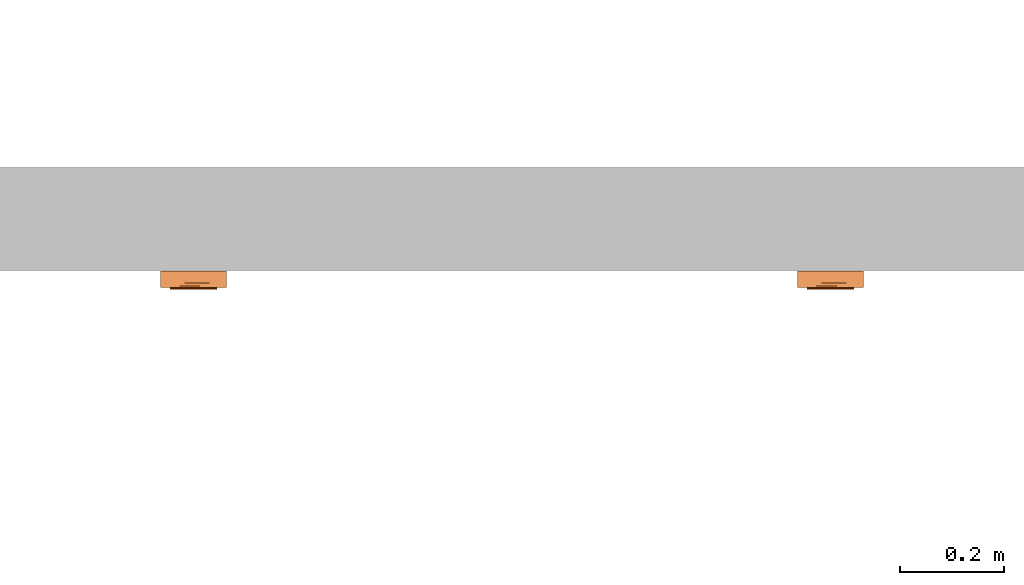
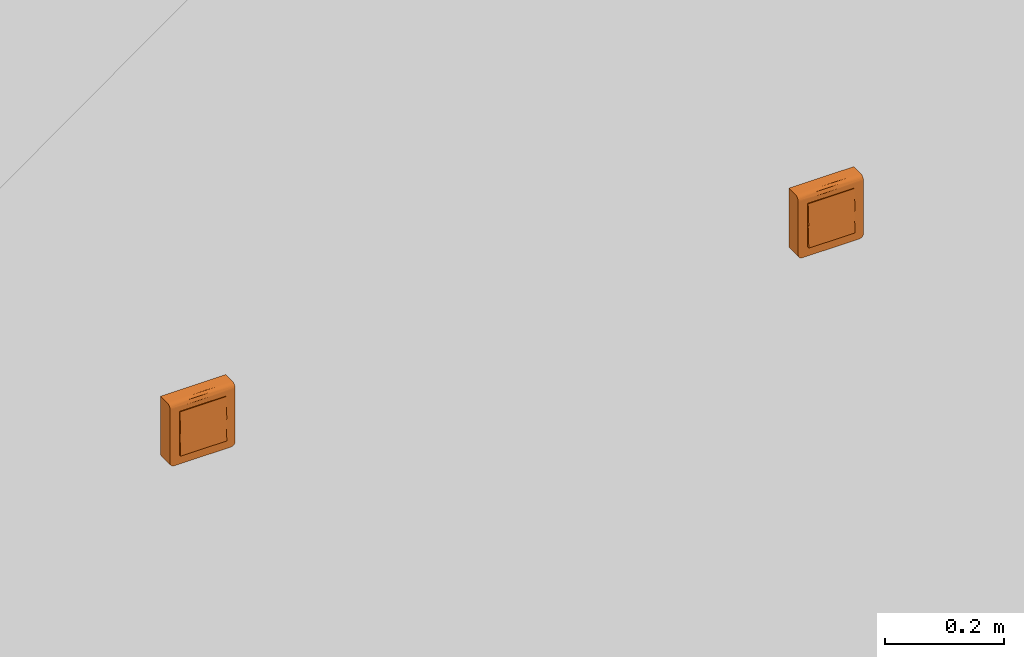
# One storey, part 167 of 197: 2 proxies.
"""IFC2X3 building model written with IfcOpenShell, lengths in metres."""

from ifc_helpers import new_model, entity, si_unit, converted_unit, direction, frame, origin, place, context, subcontext, project, spatial, faceted_brep, source, transform, mapped, material, material_list, type_object, type_shapes, element, save


model = new_model("IFC2X3")

# Units and contexts
model_context = context("Model", 3, precision=1e-05, world=origin(), true_north=direction((6.123031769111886e-17, 1.0)))
body_context = subcontext(model_context, "Body", "Model", "MODEL_VIEW")
ifc_project = project(units=[si_unit("LENGTHUNIT", "METRE"), converted_unit("PLANEANGLEUNIT", "DEGREE", entity("IfcPlaneAngleMeasure", 0.017453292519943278), si_unit("PLANEANGLEUNIT", "RADIAN"), dimensions=[0, 0, 0, 0, 0, 0, 0]), si_unit("AREAUNIT", "SQUARE_METRE")], contexts=[model_context])

# Site, building, storey
site_placement = place(None, origin())
site = spatial("IfcSite", under=ifc_project, at=site_placement, Name="Default", CompositionType="ELEMENT")
building_placement = place(site_placement, origin())
building = spatial("IfcBuilding", under=site, at=building_placement, CompositionType="ELEMENT")
storey_placement = place(building_placement, origin())
storey = spatial("IfcBuildingStorey", under=building, at=storey_placement, Name="Niveau 0", CompositionType="ELEMENT", Elevation=0.0)

# Proxies
ifc_material_1 = material(Name="BETCE-CADRE-BLANC")
ifc_material_2 = material(Name="BETCE-DOIGT-BLANC")
ifc_material_3 = material(Name="BETCE-ENJOLIVEUR-BLANC")
ifc_material_list = material_list([ifc_material_1, ifc_material_2, ifc_material_3])
building_element_proxy_type_1 = type_object("IfcBuildingElementProxyType", Name="Tableau commande 2x4 modules saillie:4 BP + 4 VV", PredefinedType="NOTDEFINED", material=ifc_material_list)
shared_shape_1 = source(origin(), body_context, "Body", "Brep", [
    faceted_brep([(0.06349999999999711, -0.022999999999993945, 0.0635), (-0.06350000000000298, -0.022999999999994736, 0.0635), (-0.06350000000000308, -0.022999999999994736, -0.055499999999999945), (-0.06322740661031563, -0.022999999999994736, -0.05757055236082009), (-0.06242820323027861, -0.02299999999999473, -0.059499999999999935), (-0.06115685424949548, -0.022999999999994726, -0.06115685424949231), (-0.05950000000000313, -0.022999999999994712, -0.06242820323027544), (-0.05757055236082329, -0.0229999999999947, -0.06322740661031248), (-0.05550000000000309, -0.022999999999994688, -0.06350000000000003), (0.055499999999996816, -0.022999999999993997, -0.0635000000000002), (0.057570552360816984, -0.022999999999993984, -0.06322740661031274), (0.05949999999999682, -0.022999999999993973, -0.062428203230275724), (0.06115685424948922, -0.022999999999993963, -0.061156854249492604), (0.062428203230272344, -0.022999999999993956, -0.05950000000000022), (0.0632274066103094, -0.022999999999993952, -0.0575705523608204), (0.06349999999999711, -0.022999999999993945, -0.05550000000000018), (-0.05550000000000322, 0.0, -0.06349999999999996), (-0.05757055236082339, 0.0, -0.06322740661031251), (-0.05950000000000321, 0.0, -0.062428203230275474), (-0.06115685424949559, 0.0, -0.06115685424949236), (-0.06242820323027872, 0.0, -0.05949999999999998), (-0.06322740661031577, 0.0, -0.05757055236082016), (-0.06350000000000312, 0.0, -0.055499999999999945), (-0.06350000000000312, 0.0, 0.0635), (0.06349999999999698, 0.0, 0.0635), (0.06349999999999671, 0.0, -0.05550000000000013), (0.06322740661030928, 0.0, -0.0575705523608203), (0.06242820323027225, 0.0, -0.05950000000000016), (0.06115685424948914, 0.0, -0.061156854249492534), (0.059499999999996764, 0.0, -0.062428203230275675), (0.05757055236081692, 0.0, -0.06322740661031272), (0.055499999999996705, 0.0, -0.0635)], [[[0, 1, 2, 3, 4, 5, 6, 7, 8, 9, 10, 11, 12, 13, 14, 15]], [[16, 17, 18, 19, 20, 21, 22, 23, 24, 25, 26, 27, 28, 29, 30, 31]], [[2, 1, 23, 22]], [[9, 8, 16, 31]], [[0, 15, 25, 24]], [[1, 0, 24, 23]], [[25, 15, 14, 26]], [[26, 14, 13, 27]], [[27, 13, 12, 28]], [[29, 11, 10, 30]], [[30, 10, 9, 31]], [[28, 12, 11, 29]], [[17, 16, 8, 7]], [[18, 17, 7, 6]], [[19, 18, 6, 5]], [[20, 19, 5, 4]], [[21, 20, 4, 3]], [[22, 21, 3, 2]]]),
    faceted_brep([(0.022499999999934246, -0.022999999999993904, -0.045000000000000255), (0.022499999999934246, -0.022999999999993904, 0.0), (0.04499999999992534, -0.022999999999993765, 0.0), (0.04499999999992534, -0.022999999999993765, -0.045000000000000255), (0.022499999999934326, -0.03574999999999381, -0.045000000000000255), (0.02249999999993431, -0.033499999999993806, 0.0), (0.044999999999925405, -0.03349999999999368, 0.0), (0.04499999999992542, -0.03574999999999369, -0.045000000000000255)], [[[0, 1, 2, 3]], [[1, 0, 4, 5]], [[2, 1, 5, 6]], [[3, 2, 6, 7]], [[0, 3, 7, 4]], [[5, 4, 7, 6]]]),
    faceted_brep([(0.0, -0.022999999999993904, -0.04500000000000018), (0.0, -0.022999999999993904, 0.0), (0.02249999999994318, -0.022999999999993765, 0.0), (0.02249999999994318, -0.022999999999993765, -0.04500000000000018), (0.0, -0.03574999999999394, -0.04500000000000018), (0.0, -0.03349999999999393, 0.0), (0.022499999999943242, -0.033499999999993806, 0.0), (0.02249999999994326, -0.03574999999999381, -0.04500000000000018)], [[[0, 1, 2, 3]], [[1, 0, 4, 5]], [[2, 1, 5, 6]], [[3, 2, 6, 7]], [[0, 3, 7, 4]], [[5, 4, 7, 6]]]),
    faceted_brep([(-0.02250000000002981, -0.022999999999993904, -0.0450000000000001), (-0.02250000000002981, -0.022999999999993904, 0.0), (0.0, -0.022999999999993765, 0.0), (0.0, -0.022999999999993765, -0.0450000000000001), (-0.02250000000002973, -0.03574999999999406, -0.0450000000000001), (-0.022500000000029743, -0.03349999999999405, 0.0), (0.0, -0.033499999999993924, 0.0), (0.0, -0.03574999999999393, -0.0450000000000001)], [[[0, 1, 2, 3]], [[1, 0, 4, 5]], [[2, 1, 5, 6]], [[3, 2, 6, 7]], [[0, 3, 7, 4]], [[5, 4, 7, 6]]]),
    faceted_brep([(-0.04500000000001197, -0.022999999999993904, -0.045000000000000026), (-0.04500000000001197, -0.022999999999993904, 0.0), (-0.022500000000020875, -0.022999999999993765, 0.0), (-0.022500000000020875, -0.022999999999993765, -0.045000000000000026), (-0.04500000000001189, -0.03574999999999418, -0.045000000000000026), (-0.0450000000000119, -0.03349999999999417, 0.0), (-0.02250000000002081, -0.03349999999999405, 0.0), (-0.022500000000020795, -0.03574999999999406, -0.045000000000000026)], [[[0, 1, 2, 3]], [[1, 0, 4, 5]], [[2, 1, 5, 6]], [[3, 2, 6, 7]], [[0, 3, 7, 4]], [[5, 4, 7, 6]]]),
    faceted_brep([(0.02249999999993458, -0.03349999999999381, 0.04499999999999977), (0.022499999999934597, -0.03574999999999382, 0.0), (0.04499999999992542, -0.0357499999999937, 0.0), (0.044999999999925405, -0.03349999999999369, 0.04499999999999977), (0.022499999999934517, -0.022999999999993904, 0.0), (0.022499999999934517, -0.022999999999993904, 0.04499999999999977), (0.04499999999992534, -0.022999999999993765, 0.04499999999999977), (0.04499999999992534, -0.022999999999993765, 0.0)], [[[0, 1, 2, 3]], [[4, 5, 6, 7]], [[5, 4, 1, 0]], [[6, 5, 0, 3]], [[7, 6, 3, 2]], [[4, 7, 2, 1]]]),
    faceted_brep([(0.0, -0.03349999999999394, 0.044999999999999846), (0.0, -0.035749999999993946, 0.0), (0.02249999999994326, -0.03574999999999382, 0.0), (0.022499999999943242, -0.03349999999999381, 0.044999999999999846), (0.0, -0.022999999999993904, 0.0), (0.0, -0.022999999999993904, 0.044999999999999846), (0.02249999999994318, -0.022999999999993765, 0.04499999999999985), (0.02249999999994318, -0.022999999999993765, 0.0)], [[[0, 1, 2, 3]], [[4, 5, 6, 7]], [[5, 4, 1, 0]], [[6, 5, 0, 3]], [[7, 6, 3, 2]], [[4, 7, 2, 1]]]),
    faceted_brep([(-0.022500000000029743, -0.03349999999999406, 0.04499999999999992), (-0.02250000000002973, -0.03574999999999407, 0.0), (0.0, -0.03574999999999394, 0.0), (0.0, -0.03349999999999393, 0.04499999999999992), (-0.02250000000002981, -0.022999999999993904, 0.0), (-0.02250000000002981, -0.022999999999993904, 0.04499999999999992), (0.0, -0.022999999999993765, 0.04499999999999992), (0.0, -0.022999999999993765, 0.0)], [[[0, 1, 2, 3]], [[4, 5, 6, 7]], [[5, 4, 1, 0]], [[6, 5, 0, 3]], [[7, 6, 3, 2]], [[4, 7, 2, 1]]]),
    faceted_brep([(-0.04500000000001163, -0.03349999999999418, 0.045), (-0.045000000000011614, -0.03574999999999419, 0.0), (-0.022500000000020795, -0.035749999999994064, 0.0), (-0.02250000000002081, -0.03349999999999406, 0.045), (-0.0450000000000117, -0.022999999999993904, 0.0), (-0.0450000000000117, -0.022999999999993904, 0.045), (-0.022500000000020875, -0.022999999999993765, 0.045000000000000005), (-0.022500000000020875, -0.022999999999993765, 0.0)], [[[0, 1, 2, 3]], [[4, 5, 6, 7]], [[5, 4, 1, 0]], [[6, 5, 0, 3]], [[7, 6, 3, 2]], [[4, 7, 2, 1]]]),
    faceted_brep([(0.06349999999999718, -0.03199999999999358, -0.055500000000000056), (0.063499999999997, -0.03199999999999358, 0.05450000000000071), (0.04499999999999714, -0.03199999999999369, -0.045000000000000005), (0.05549999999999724, -0.03199999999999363, -0.06350000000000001), (0.057570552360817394, -0.03199999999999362, -0.06322740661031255), (0.06322740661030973, -0.03199999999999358, -0.05757055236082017), (0.04499999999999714, -0.03199999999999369, 0.045), (-0.04500000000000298, -0.031999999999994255, 0.045000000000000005), (-0.011124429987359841, -0.03199999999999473, 0.054500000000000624), (-0.06350000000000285, -0.03199999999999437, 0.05450000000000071), (-0.04500000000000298, -0.031999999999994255, -0.045000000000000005), (-0.06350000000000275, -0.03199999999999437, -0.05550000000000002), (-0.05550000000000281, -0.03199999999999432, -0.06350000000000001), (-0.05757055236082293, -0.03199999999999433, -0.06322740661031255), (-0.06322740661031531, -0.031999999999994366, -0.05757055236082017), (-0.05950000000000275, -0.031999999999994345, -0.062428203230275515), (-0.06242820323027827, -0.03199999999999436, -0.05950000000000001), (-0.06115685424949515, -0.03199999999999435, -0.06115685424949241), (0.05949999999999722, -0.0319999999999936, -0.062428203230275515), (0.062428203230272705, -0.03199999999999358, -0.05949999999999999), (0.06115685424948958, -0.031999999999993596, -0.061156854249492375), (-0.06350000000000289, -0.02299999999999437, -0.05550000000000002), (-0.06350000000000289, -0.02299999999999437, 0.06350000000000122), (-0.04500000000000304, -0.02299999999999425, 0.045000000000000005), (-0.04500000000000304, -0.02299999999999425, -0.045000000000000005), (-0.05550000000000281, -0.02299999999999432, -0.06350000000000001), (-0.06322740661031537, -0.022999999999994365, -0.05757055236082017), (0.04499999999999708, -0.022999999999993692, 0.045000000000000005), (0.011124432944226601, -0.022999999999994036, 0.06350000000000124), (0.06349999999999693, -0.022999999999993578, 0.0635), (0.06349999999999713, -0.022999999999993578, -0.05550000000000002), (0.04499999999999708, -0.022999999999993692, -0.045000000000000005), (0.05549999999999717, -0.02299999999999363, -0.06350000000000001), (0.06322740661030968, -0.022999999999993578, -0.05757055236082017), (0.05757055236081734, -0.022999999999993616, -0.06322740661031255), (0.06242820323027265, -0.022999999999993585, -0.05949999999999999), (0.05949999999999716, -0.022999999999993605, -0.062428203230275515), (0.06115685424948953, -0.02299999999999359, -0.061156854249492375), (-0.05757055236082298, -0.02299999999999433, -0.06322740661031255), (-0.062428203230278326, -0.022999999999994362, -0.05950000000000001), (-0.05950000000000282, -0.022999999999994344, -0.062428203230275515), (-0.0611568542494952, -0.02299999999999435, -0.06115685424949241), (0.06349999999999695, -0.025329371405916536, 0.06319333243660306), (0.06349999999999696, -0.02749999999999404, 0.06229422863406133), (0.06349999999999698, -0.029363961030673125, 0.060863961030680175), (0.06349999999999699, -0.03079422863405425, 0.05900000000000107), (0.06349999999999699, -0.03169333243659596, 0.05682937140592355), (-0.06350000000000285, -0.03169333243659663, 0.0568293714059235), (-0.06350000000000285, -0.030794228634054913, 0.059000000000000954), (-0.06350000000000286, -0.029363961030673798, 0.06086396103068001), (-0.06350000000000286, -0.027499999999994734, 0.062294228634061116), (-0.06350000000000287, -0.025329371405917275, 0.06319333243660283), (-0.010857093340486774, -0.029120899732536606, 0.06109807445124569)], [[[0, 1, 2]], [[3, 0, 2]], [[0, 3, 4]], [[5, 0, 4]], [[2, 1, 6]], [[1, 7, 6]], [[7, 1, 8]], [[7, 8, 9]], [[10, 7, 9]], [[11, 10, 9]], [[12, 10, 11]], [[12, 11, 13]], [[13, 11, 14]], [[15, 13, 14]], [[16, 15, 14]], [[15, 16, 17]], [[10, 12, 3]], [[2, 10, 3]], [[5, 4, 18]], [[5, 18, 19]], [[20, 19, 18]], [[21, 22, 23]], [[24, 21, 23]], [[25, 21, 24]], [[26, 21, 25]], [[22, 27, 23]], [[27, 22, 28]], [[27, 28, 29]], [[30, 27, 29]], [[31, 27, 30]], [[32, 31, 30]], [[32, 30, 33]], [[32, 33, 34]], [[33, 35, 34]], [[35, 36, 34]], [[36, 35, 37]], [[31, 32, 25]], [[26, 25, 38]], [[24, 31, 25]], [[39, 26, 38]], [[39, 38, 40]], [[41, 39, 40]], [[1, 0, 30, 29, 42, 43, 44, 45, 46]], [[33, 30, 0, 5]], [[35, 33, 5, 19]], [[37, 35, 19, 20]], [[36, 37, 20, 18]], [[34, 36, 18, 4]], [[32, 34, 4, 3]], [[25, 32, 3, 12]], [[38, 25, 12, 13]], [[40, 38, 13, 15]], [[41, 40, 15, 17]], [[39, 41, 17, 16]], [[26, 39, 16, 14]], [[21, 26, 14, 11]], [[22, 21, 11, 9, 47, 48, 49, 50, 51]], [[24, 23, 7, 10]], [[31, 24, 10, 2]], [[27, 31, 2, 6]], [[23, 27, 6, 7]], [[52, 8, 45]], [[47, 9, 8]], [[1, 46, 8]], [[44, 52, 45]], [[46, 45, 8]], [[50, 52, 51]], [[48, 47, 8]], [[28, 52, 43]], [[48, 52, 49]], [[42, 29, 28]], [[28, 22, 51]], [[48, 8, 52]], [[28, 43, 42]], [[44, 43, 52]], [[52, 50, 49]], [[52, 28, 51]]]),
])
type_shapes(building_element_proxy_type_1, [shared_shape_1])
proxy_1_placement = place(storey_placement, frame((-351.1217796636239, 116.01635778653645, 1.1)))
element("IfcBuildingElementProxy", 1, at=proxy_1_placement, inside=storey, type_object=building_element_proxy_type_1, material=ifc_material_list, Name="Tableau commande 2x4 modules saillie:4 BP + 4 VV", ObjectType="Tableau commande 2x4 modules saillie:4 BP + 4 VV", context=body_context, shape_type="MappedRepresentation", body=[
    mapped(shared_shape_1, transform((0.0, 0.0, 0.0), scale=1.0)),
])
building_element_proxy_type_2 = type_object("IfcBuildingElementProxyType", Name="Tableau commande 2x4 modules saillie:5 BP + 3 VV", PredefinedType="NOTDEFINED", material=ifc_material_list)
shared_shape_2 = source(origin(), body_context, "Body", "Brep", [
    faceted_brep([(0.06349999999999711, -0.022999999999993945, 0.0635), (-0.06350000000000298, -0.022999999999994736, 0.0635), (-0.06350000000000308, -0.022999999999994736, -0.055499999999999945), (-0.06322740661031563, -0.022999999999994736, -0.05757055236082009), (-0.06242820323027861, -0.02299999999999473, -0.059499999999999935), (-0.06115685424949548, -0.022999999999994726, -0.06115685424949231), (-0.05950000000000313, -0.022999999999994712, -0.06242820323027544), (-0.05757055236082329, -0.0229999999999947, -0.06322740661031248), (-0.05550000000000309, -0.022999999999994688, -0.06350000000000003), (0.055499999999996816, -0.022999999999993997, -0.0635000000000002), (0.057570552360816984, -0.022999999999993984, -0.06322740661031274), (0.05949999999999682, -0.022999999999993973, -0.062428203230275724), (0.06115685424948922, -0.022999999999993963, -0.061156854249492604), (0.062428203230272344, -0.022999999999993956, -0.05950000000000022), (0.0632274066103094, -0.022999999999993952, -0.0575705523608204), (0.06349999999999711, -0.022999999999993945, -0.05550000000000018), (-0.05550000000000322, 0.0, -0.06349999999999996), (-0.05757055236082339, 0.0, -0.06322740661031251), (-0.05950000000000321, 0.0, -0.062428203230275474), (-0.06115685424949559, 0.0, -0.06115685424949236), (-0.06242820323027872, 0.0, -0.05949999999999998), (-0.06322740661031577, 0.0, -0.05757055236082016), (-0.06350000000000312, 0.0, -0.055499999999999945), (-0.06350000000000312, 0.0, 0.0635), (0.06349999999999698, 0.0, 0.0635), (0.06349999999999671, 0.0, -0.05550000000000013), (0.06322740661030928, 0.0, -0.0575705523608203), (0.06242820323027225, 0.0, -0.05950000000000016), (0.06115685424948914, 0.0, -0.061156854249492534), (0.059499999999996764, 0.0, -0.062428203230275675), (0.05757055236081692, 0.0, -0.06322740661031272), (0.055499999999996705, 0.0, -0.0635)], [[[0, 1, 2, 3, 4, 5, 6, 7, 8, 9, 10, 11, 12, 13, 14, 15]], [[16, 17, 18, 19, 20, 21, 22, 23, 24, 25, 26, 27, 28, 29, 30, 31]], [[2, 1, 23, 22]], [[9, 8, 16, 31]], [[0, 15, 25, 24]], [[1, 0, 24, 23]], [[25, 15, 14, 26]], [[26, 14, 13, 27]], [[27, 13, 12, 28]], [[29, 11, 10, 30]], [[30, 10, 9, 31]], [[28, 12, 11, 29]], [[17, 16, 8, 7]], [[18, 17, 7, 6]], [[19, 18, 6, 5]], [[20, 19, 5, 4]], [[21, 20, 4, 3]], [[22, 21, 3, 2]]]),
    faceted_brep([(0.022499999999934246, -0.022999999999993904, -0.045000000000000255), (0.022499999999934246, -0.022999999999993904, 0.0), (0.04499999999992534, -0.022999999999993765, 0.0), (0.04499999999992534, -0.022999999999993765, -0.045000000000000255), (0.022499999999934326, -0.03574999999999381, -0.045000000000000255), (0.02249999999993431, -0.033499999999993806, 0.0), (0.044999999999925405, -0.03349999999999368, 0.0), (0.04499999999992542, -0.03574999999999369, -0.045000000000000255)], [[[0, 1, 2, 3]], [[1, 0, 4, 5]], [[2, 1, 5, 6]], [[3, 2, 6, 7]], [[0, 3, 7, 4]], [[5, 4, 7, 6]]]),
    faceted_brep([(0.0, -0.022999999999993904, -0.04500000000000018), (0.0, -0.022999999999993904, 0.0), (0.02249999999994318, -0.022999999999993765, 0.0), (0.02249999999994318, -0.022999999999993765, -0.04500000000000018), (0.0, -0.03574999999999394, -0.04500000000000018), (0.0, -0.03349999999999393, 0.0), (0.022499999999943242, -0.033499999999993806, 0.0), (0.02249999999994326, -0.03574999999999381, -0.04500000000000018)], [[[0, 1, 2, 3]], [[1, 0, 4, 5]], [[2, 1, 5, 6]], [[3, 2, 6, 7]], [[0, 3, 7, 4]], [[5, 4, 7, 6]]]),
    faceted_brep([(-0.02250000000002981, -0.022999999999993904, -0.0450000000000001), (-0.02250000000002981, -0.022999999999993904, 0.0), (0.0, -0.022999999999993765, 0.0), (0.0, -0.022999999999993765, -0.0450000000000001), (-0.02250000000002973, -0.03574999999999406, -0.0450000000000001), (-0.022500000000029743, -0.03349999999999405, 0.0), (0.0, -0.033499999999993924, 0.0), (0.0, -0.03574999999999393, -0.0450000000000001)], [[[0, 1, 2, 3]], [[1, 0, 4, 5]], [[2, 1, 5, 6]], [[3, 2, 6, 7]], [[0, 3, 7, 4]], [[5, 4, 7, 6]]]),
    faceted_brep([(-0.04500000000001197, -0.022999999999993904, -0.045000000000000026), (-0.04500000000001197, -0.022999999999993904, 0.0), (-0.022500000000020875, -0.022999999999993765, 0.0), (-0.022500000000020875, -0.022999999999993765, -0.045000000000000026), (-0.04500000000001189, -0.03574999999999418, -0.045000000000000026), (-0.0450000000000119, -0.03349999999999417, 0.0), (-0.02250000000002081, -0.03349999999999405, 0.0), (-0.022500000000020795, -0.03574999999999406, -0.045000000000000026)], [[[0, 1, 2, 3]], [[1, 0, 4, 5]], [[2, 1, 5, 6]], [[3, 2, 6, 7]], [[0, 3, 7, 4]], [[5, 4, 7, 6]]]),
    faceted_brep([(0.02249999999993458, -0.03349999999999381, 0.04499999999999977), (0.022499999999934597, -0.03574999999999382, 0.0), (0.04499999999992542, -0.0357499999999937, 0.0), (0.044999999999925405, -0.03349999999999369, 0.04499999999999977), (0.022499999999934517, -0.022999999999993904, 0.0), (0.022499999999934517, -0.022999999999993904, 0.04499999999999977), (0.04499999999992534, -0.022999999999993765, 0.04499999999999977), (0.04499999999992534, -0.022999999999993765, 0.0)], [[[0, 1, 2, 3]], [[4, 5, 6, 7]], [[5, 4, 1, 0]], [[6, 5, 0, 3]], [[7, 6, 3, 2]], [[4, 7, 2, 1]]]),
    faceted_brep([(0.0, -0.03349999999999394, 0.044999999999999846), (0.0, -0.035749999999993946, 0.0), (0.02249999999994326, -0.03574999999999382, 0.0), (0.022499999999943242, -0.03349999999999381, 0.044999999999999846), (0.0, -0.022999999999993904, 0.0), (0.0, -0.022999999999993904, 0.044999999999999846), (0.02249999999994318, -0.022999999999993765, 0.04499999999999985), (0.02249999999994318, -0.022999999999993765, 0.0)], [[[0, 1, 2, 3]], [[4, 5, 6, 7]], [[5, 4, 1, 0]], [[6, 5, 0, 3]], [[7, 6, 3, 2]], [[4, 7, 2, 1]]]),
    faceted_brep([(-0.022500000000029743, -0.03349999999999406, 0.04499999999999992), (-0.02250000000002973, -0.03574999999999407, 0.0), (0.0, -0.03574999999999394, 0.0), (0.0, -0.03349999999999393, 0.04499999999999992), (-0.02250000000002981, -0.022999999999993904, 0.0), (-0.02250000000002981, -0.022999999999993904, 0.04499999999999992), (0.0, -0.022999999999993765, 0.04499999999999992), (0.0, -0.022999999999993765, 0.0)], [[[0, 1, 2, 3]], [[4, 5, 6, 7]], [[5, 4, 1, 0]], [[6, 5, 0, 3]], [[7, 6, 3, 2]], [[4, 7, 2, 1]]]),
    faceted_brep([(-0.04500000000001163, -0.03349999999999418, 0.045), (-0.045000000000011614, -0.03574999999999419, 0.0), (-0.022500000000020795, -0.035749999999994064, 0.0), (-0.02250000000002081, -0.03349999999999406, 0.045), (-0.0450000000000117, -0.022999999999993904, 0.0), (-0.0450000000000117, -0.022999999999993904, 0.045), (-0.022500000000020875, -0.022999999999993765, 0.045000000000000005), (-0.022500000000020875, -0.022999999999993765, 0.0)], [[[0, 1, 2, 3]], [[4, 5, 6, 7]], [[5, 4, 1, 0]], [[6, 5, 0, 3]], [[7, 6, 3, 2]], [[4, 7, 2, 1]]]),
    faceted_brep([(0.06349999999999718, -0.03199999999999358, -0.055500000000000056), (0.063499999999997, -0.03199999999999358, 0.05450000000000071), (0.04499999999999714, -0.03199999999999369, -0.045000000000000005), (0.05549999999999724, -0.03199999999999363, -0.06350000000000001), (0.057570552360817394, -0.03199999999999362, -0.06322740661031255), (0.06322740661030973, -0.03199999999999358, -0.05757055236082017), (0.04499999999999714, -0.03199999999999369, 0.045), (-0.04500000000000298, -0.031999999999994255, 0.045000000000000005), (-0.011124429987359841, -0.03199999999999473, 0.054500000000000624), (-0.06350000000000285, -0.03199999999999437, 0.05450000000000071), (-0.04500000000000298, -0.031999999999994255, -0.045000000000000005), (-0.06350000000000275, -0.03199999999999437, -0.05550000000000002), (-0.05550000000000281, -0.03199999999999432, -0.06350000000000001), (-0.05757055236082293, -0.03199999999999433, -0.06322740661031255), (-0.06322740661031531, -0.031999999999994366, -0.05757055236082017), (-0.05950000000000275, -0.031999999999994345, -0.062428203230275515), (-0.06242820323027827, -0.03199999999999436, -0.05950000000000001), (-0.06115685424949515, -0.03199999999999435, -0.06115685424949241), (0.05949999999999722, -0.0319999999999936, -0.062428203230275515), (0.062428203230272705, -0.03199999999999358, -0.05949999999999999), (0.06115685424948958, -0.031999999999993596, -0.061156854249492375), (-0.06350000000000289, -0.02299999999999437, -0.05550000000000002), (-0.06350000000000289, -0.02299999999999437, 0.06350000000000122), (-0.04500000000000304, -0.02299999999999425, 0.045000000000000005), (-0.04500000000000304, -0.02299999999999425, -0.045000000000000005), (-0.05550000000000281, -0.02299999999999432, -0.06350000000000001), (-0.06322740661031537, -0.022999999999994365, -0.05757055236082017), (0.04499999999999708, -0.022999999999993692, 0.045000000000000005), (0.011124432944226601, -0.022999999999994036, 0.06350000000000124), (0.06349999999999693, -0.022999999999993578, 0.0635), (0.06349999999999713, -0.022999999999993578, -0.05550000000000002), (0.04499999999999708, -0.022999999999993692, -0.045000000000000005), (0.05549999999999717, -0.02299999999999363, -0.06350000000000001), (0.06322740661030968, -0.022999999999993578, -0.05757055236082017), (0.05757055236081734, -0.022999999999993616, -0.06322740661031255), (0.06242820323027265, -0.022999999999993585, -0.05949999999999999), (0.05949999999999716, -0.022999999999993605, -0.062428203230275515), (0.06115685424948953, -0.02299999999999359, -0.061156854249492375), (-0.05757055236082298, -0.02299999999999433, -0.06322740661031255), (-0.062428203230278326, -0.022999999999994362, -0.05950000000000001), (-0.05950000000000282, -0.022999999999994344, -0.062428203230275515), (-0.0611568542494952, -0.02299999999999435, -0.06115685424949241), (0.06349999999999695, -0.025329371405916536, 0.06319333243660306), (0.06349999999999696, -0.02749999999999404, 0.06229422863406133), (0.06349999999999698, -0.029363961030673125, 0.060863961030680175), (0.06349999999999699, -0.03079422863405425, 0.05900000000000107), (0.06349999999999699, -0.03169333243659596, 0.05682937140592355), (-0.06350000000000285, -0.03169333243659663, 0.0568293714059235), (-0.06350000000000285, -0.030794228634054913, 0.059000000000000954), (-0.06350000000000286, -0.029363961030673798, 0.06086396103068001), (-0.06350000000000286, -0.027499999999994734, 0.062294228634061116), (-0.06350000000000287, -0.025329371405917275, 0.06319333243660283), (-0.010857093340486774, -0.029120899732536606, 0.06109807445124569)], [[[0, 1, 2]], [[3, 0, 2]], [[0, 3, 4]], [[5, 0, 4]], [[2, 1, 6]], [[1, 7, 6]], [[7, 1, 8]], [[7, 8, 9]], [[10, 7, 9]], [[11, 10, 9]], [[12, 10, 11]], [[12, 11, 13]], [[13, 11, 14]], [[15, 13, 14]], [[16, 15, 14]], [[15, 16, 17]], [[10, 12, 3]], [[2, 10, 3]], [[5, 4, 18]], [[5, 18, 19]], [[20, 19, 18]], [[21, 22, 23]], [[24, 21, 23]], [[25, 21, 24]], [[26, 21, 25]], [[22, 27, 23]], [[27, 22, 28]], [[27, 28, 29]], [[30, 27, 29]], [[31, 27, 30]], [[32, 31, 30]], [[32, 30, 33]], [[32, 33, 34]], [[33, 35, 34]], [[35, 36, 34]], [[36, 35, 37]], [[31, 32, 25]], [[26, 25, 38]], [[24, 31, 25]], [[39, 26, 38]], [[39, 38, 40]], [[41, 39, 40]], [[1, 0, 30, 29, 42, 43, 44, 45, 46]], [[33, 30, 0, 5]], [[35, 33, 5, 19]], [[37, 35, 19, 20]], [[36, 37, 20, 18]], [[34, 36, 18, 4]], [[32, 34, 4, 3]], [[25, 32, 3, 12]], [[38, 25, 12, 13]], [[40, 38, 13, 15]], [[41, 40, 15, 17]], [[39, 41, 17, 16]], [[26, 39, 16, 14]], [[21, 26, 14, 11]], [[22, 21, 11, 9, 47, 48, 49, 50, 51]], [[24, 23, 7, 10]], [[31, 24, 10, 2]], [[27, 31, 2, 6]], [[23, 27, 6, 7]], [[52, 8, 45]], [[47, 9, 8]], [[1, 46, 8]], [[44, 52, 45]], [[46, 45, 8]], [[50, 52, 51]], [[48, 47, 8]], [[28, 52, 43]], [[48, 52, 49]], [[42, 29, 28]], [[28, 22, 51]], [[48, 8, 52]], [[28, 43, 42]], [[44, 43, 52]], [[52, 50, 49]], [[52, 28, 51]]]),
])
type_shapes(building_element_proxy_type_2, [shared_shape_2])
proxy_2_placement = place(storey_placement, frame((-349.8977796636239, 116.01635778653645, 1.1)))
element("IfcBuildingElementProxy", 2, at=proxy_2_placement, inside=storey, type_object=building_element_proxy_type_2, material=ifc_material_list, Name="Tableau commande 2x4 modules saillie:5 BP + 3 VV", ObjectType="Tableau commande 2x4 modules saillie:5 BP + 3 VV", context=body_context, shape_type="MappedRepresentation", body=[
    mapped(shared_shape_2, transform((0.0, 0.0, 0.0), scale=1.0)),
])

save(model, "model.ifc")
